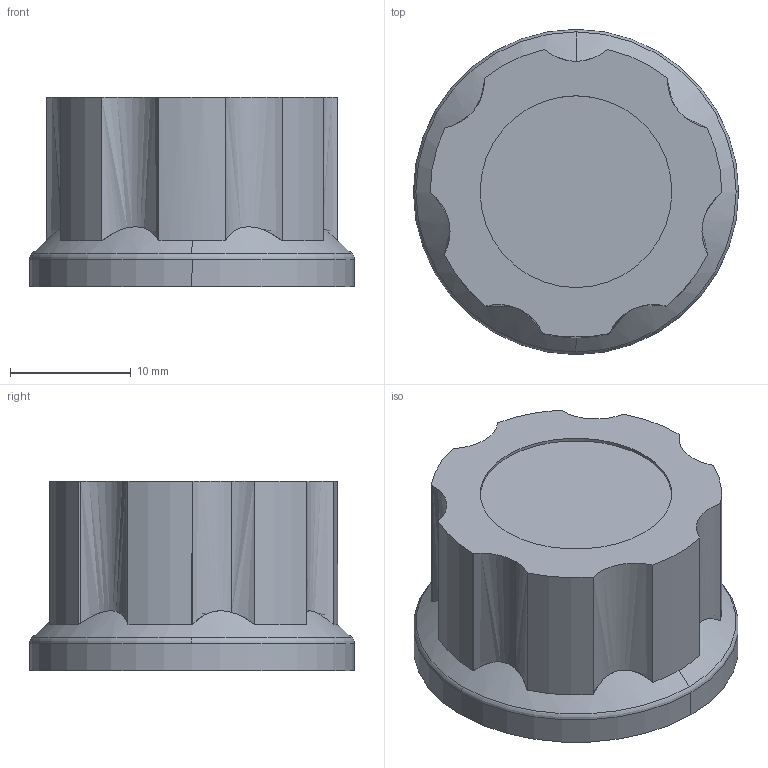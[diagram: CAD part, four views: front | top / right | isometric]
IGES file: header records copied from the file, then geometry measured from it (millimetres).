
Global section: file name: C:\Documents and Settings\Administrator\My Documents\PersonalProject\knob.igs; native system: AutoDesk Inventor R2.0 ; preprocessor: AutoDesk Inventor Iges Exporter R2.0; author: No Author specified; organization: No Organization specified; date: 20020115.183105; units: inch
Bounding box: 26.92 x 26.92 x 15.7 mm (x, y, z)
Surface area: 3196.6 mm2 (no closed solid volume)
Topology: 0 solids, 0 shells, 43 faces, 216 edges, 216 vertices
Faces by surface type: revolution 36, bspline 7
